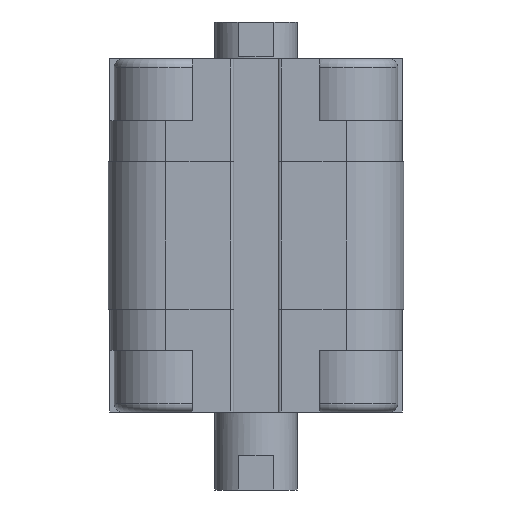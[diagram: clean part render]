
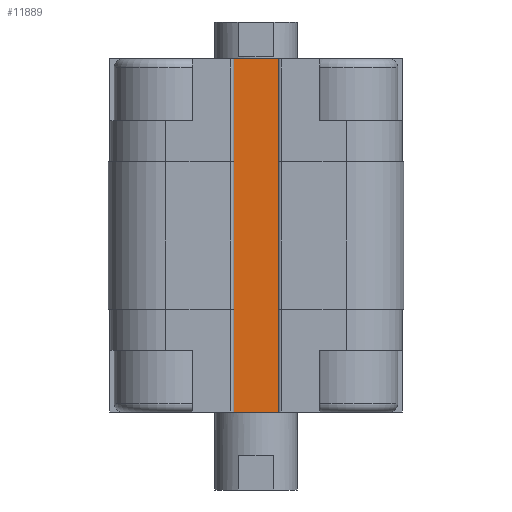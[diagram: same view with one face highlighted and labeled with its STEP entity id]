
A CAD part, front view. The second image highlights one B-rep face of the part: STEP entity #11889.
In plain terms, the highlighted planar face has unit normal (0, -1, 0).
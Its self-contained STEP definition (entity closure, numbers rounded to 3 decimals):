
#1320 = CARTESIAN_POINT ( 'NONE',  ( -3., -13., -43. ) ) ;
#2001 = CARTESIAN_POINT ( 'NONE',  ( -3., -13., 0. ) ) ;
#2075 = CARTESIAN_POINT ( 'NONE',  ( 3., -13., -12.5 ) ) ;
#2116 = DIRECTION ( 'NONE',  ( 0., -1., 0. ) ) ;
#2165 = LINE ( 'NONE', #2075, #7406 ) ;
#3237 = ORIENTED_EDGE ( 'NONE', *, *, #14633, .F. ) ;
#3361 = CARTESIAN_POINT ( 'NONE',  ( -3., -13., -12.5 ) ) ;
#3507 = LINE ( 'NONE', #9297, #12963 ) ;
#3622 = EDGE_CURVE ( 'NONE', #8664, #11514, #2165, .T. ) ;
#3690 = CARTESIAN_POINT ( 'NONE',  ( 3., -13., 0. ) ) ;
#3725 = VERTEX_POINT ( 'NONE', #12713 ) ;
#3990 = DIRECTION ( 'NONE',  ( 1., 0., 0. ) ) ;
#4332 = DIRECTION ( 'NONE',  ( 0., 0., 1. ) ) ;
#6220 = DIRECTION ( 'NONE',  ( -1., 0., 0. ) ) ;
#6622 = ORIENTED_EDGE ( 'NONE', *, *, #18177, .F. ) ;
#7406 = VECTOR ( 'NONE', #7878, 1000. ) ;
#7458 = VECTOR ( 'NONE', #3990, 1000. ) ;
#7727 = FACE_OUTER_BOUND ( 'NONE', #17120, .T. ) ;
#7878 = DIRECTION ( 'NONE',  ( 0., 0., 1. ) ) ;
#8664 = VERTEX_POINT ( 'NONE', #16735 ) ;
#9297 = CARTESIAN_POINT ( 'NONE',  ( -3., -13., 0. ) ) ;
#11514 = VERTEX_POINT ( 'NONE', #3690 ) ;
#11574 = CARTESIAN_POINT ( 'NONE',  ( -3., -13., -12.5 ) ) ;
#11889 = ADVANCED_FACE ( 'NONE', ( #7727 ), #13940, .T. ) ;
#12713 = CARTESIAN_POINT ( 'NONE',  ( -3., -13., -43. ) ) ;
#12963 = VECTOR ( 'NONE', #13411, 1000. ) ;
#13011 = LINE ( 'NONE', #11574, #18408 ) ;
#13411 = DIRECTION ( 'NONE',  ( 1., 0., 0. ) ) ;
#13940 = PLANE ( 'NONE',  #18330 ) ;
#14633 = EDGE_CURVE ( 'NONE', #3725, #17780, #13011, .T. ) ;
#15243 = ORIENTED_EDGE ( 'NONE', *, *, #3622, .T. ) ;
#16735 = CARTESIAN_POINT ( 'NONE',  ( 3., -13., -43. ) ) ;
#16987 = EDGE_CURVE ( 'NONE', #3725, #8664, #17070, .T. ) ;
#17070 = LINE ( 'NONE', #1320, #7458 ) ;
#17120 = EDGE_LOOP ( 'NONE', ( #6622, #3237, #18838, #15243 ) ) ;
#17780 = VERTEX_POINT ( 'NONE', #2001 ) ;
#18177 = EDGE_CURVE ( 'NONE', #17780, #11514, #3507, .T. ) ;
#18330 = AXIS2_PLACEMENT_3D ( 'NONE', #3361, #2116, #6220 ) ;
#18408 = VECTOR ( 'NONE', #4332, 1000. ) ;
#18838 = ORIENTED_EDGE ( 'NONE', *, *, #16987, .T. ) ;
